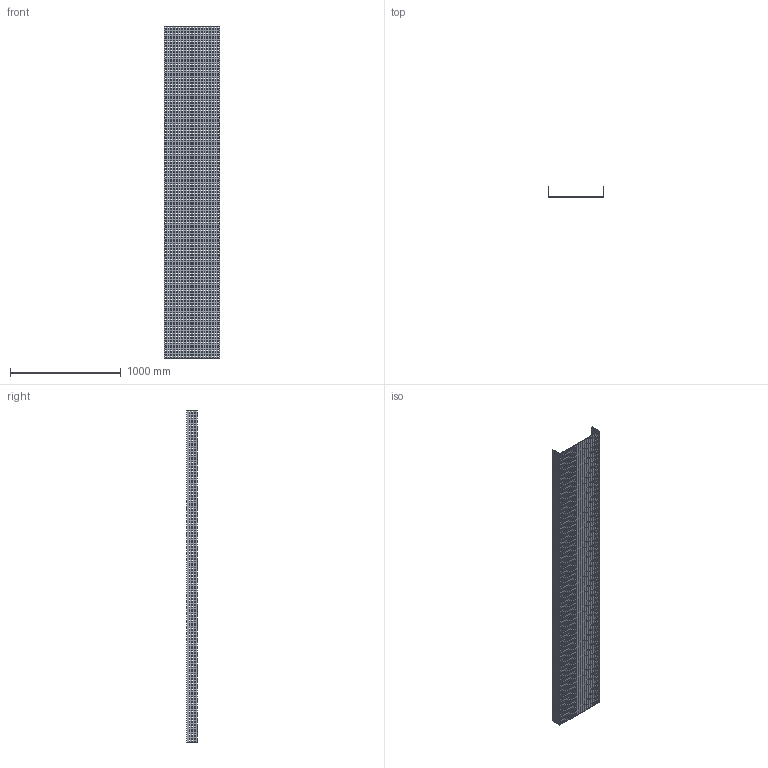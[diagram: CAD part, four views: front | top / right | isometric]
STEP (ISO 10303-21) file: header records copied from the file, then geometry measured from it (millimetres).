
FILE_DESCRIPTION (( 'STEP AP214' ), '1' );
FILE_NAME ('01B3I500.step', '2025-02-21T10:25:48', ( '' ), ( '' ), 'SwSTEP 2.0', 'SolidWorks 2023', '' );
FILE_SCHEMA (( 'AUTOMOTIVE_DESIGN' ));
Length unit declared in the file: millimetre
Products named in the file (1): 01B3I500
Bounding box: 504 x 92.5 x 3000 mm (x, y, z)
Volume: 6014400 mm3; surface area: 3881902 mm2
Topology: 1 solids, 1 shells, 7498 faces, 22488 edges, 14992 vertices
Faces by surface type: plane 7498
Entity records: 254903 total; most frequent: CARTESIAN_POINT 44979, ORIENTED_EDGE 44976, DIRECTION 37486, LINE 22488, EDGE_CURVE 22488, VECTOR 22488, VERTEX_POINT 14992, EDGE_LOOP 11242
